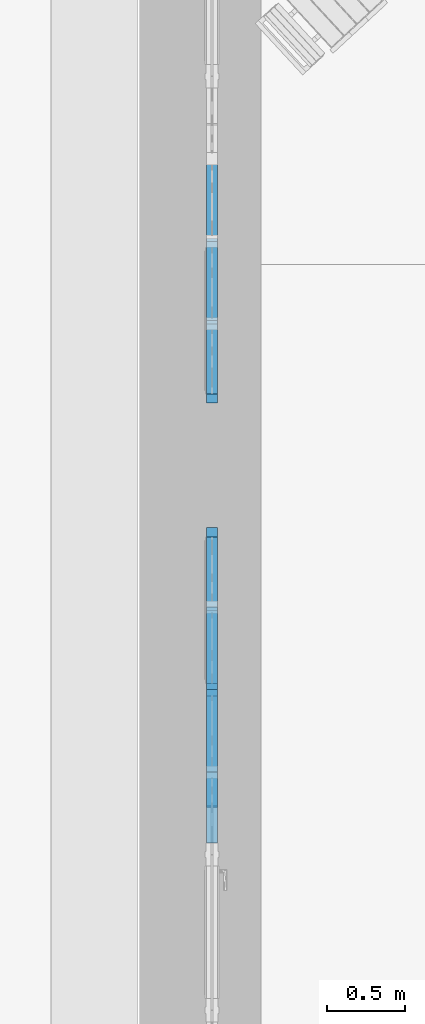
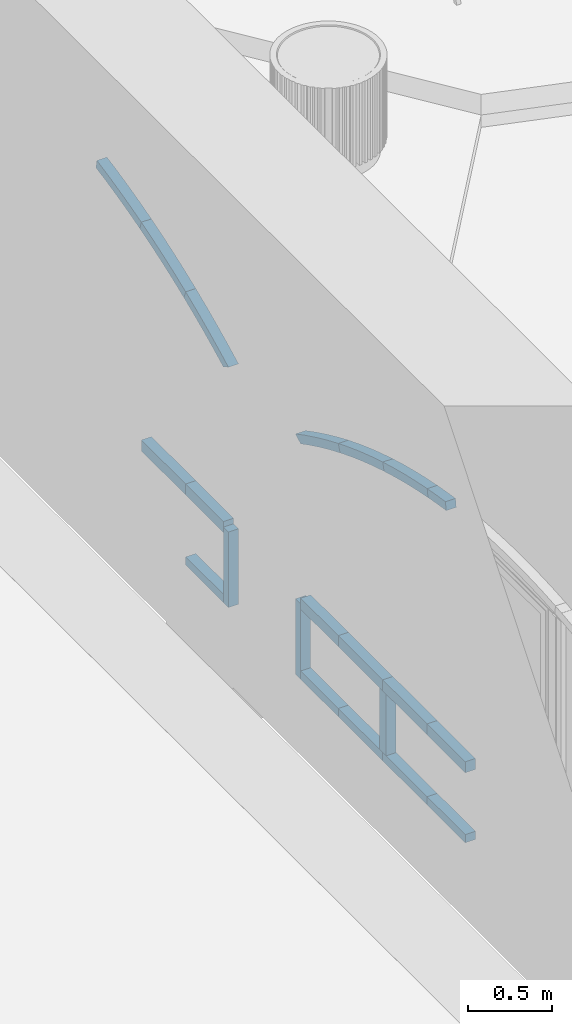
# One storey, part 40 of 88: 21 members, 2 elements without a shape of their own.
"""IFC2X3 building model written with IfcOpenShell, lengths in millimetres."""

import ifcopenshell
import ifcopenshell.guid

model = None  # the IFC model being written
_history = None  # IfcOwnerHistory: only IFC2X3 demands one
_inside = {}  # id of a spatial element -> (the spatial element, [elements in it])
_under = {}  # id of a project, library or spatial element -> (it, [spatial elements below it])
_declared = {}  # id of a project -> (the project, [libraries it declares])
_typed = {}  # id of a type object -> (the type object, [elements of that type])
_made_of = {}  # id of a material, layer set ... -> (it, [elements and type objects made of it])


def new_model(schema):
    """Start an empty IFC model of exactly this schema.

    Asked for "IFC4X3", IfcOpenShell would pick the latest addendum, in which some entities
    have other attributes; the version numbers below select the first issue.
    IFC2X3 requires an IfcOwnerHistory on every rooted entity: one is made here for all.
    """
    global model, _history
    if schema == "IFC4X3":
        model = ifcopenshell.file(schema_version=(4, 3, 0, 0))
    else:
        model = ifcopenshell.file(schema=schema)
    _inside.clear()
    _under.clear()
    _declared.clear()
    _typed.clear()
    _made_of.clear()
    _history = None
    if model.schema == "IFC2X3":
        org = make("IfcOrganization", Name="unknown")
        user = make(
            "IfcPersonAndOrganization",
            ThePerson=make("IfcPerson", FamilyName="unknown"),
            TheOrganization=org,
        )
        app = make(
            "IfcApplication",
            ApplicationDeveloper=org,
            Version="unknown",
            ApplicationFullName="unknown",
            ApplicationIdentifier="unknown",
        )
        _history = make(
            "IfcOwnerHistory",
            OwningUser=user,
            OwningApplication=app,
            ChangeAction="ADDED",
            CreationDate=0,
        )
    return model


def make(cls, **values):
    """One entity of the class cls with the attributes given. An attribute that is None is left unset."""
    return model.create_entity(
        cls, **{name: value for name, value in values.items() if value is not None}
    )


def entity(cls, *values):
    """Any entity or typed value of the class cls, its attributes in the order of the schema. None: left unset."""
    e = model.create_entity(cls)
    for i, value in enumerate(values):
        if value is not None:
            e[i] = value
    return e


def rooted(cls, **values):
    """An entity with a GlobalId (a new one), such as an element, a storey or a relation."""
    return make(cls, GlobalId=ifcopenshell.guid.new(), OwnerHistory=_history, **values)


def si_unit(unit_type, name, prefix=None):
    """IfcSIUnit, for example si_unit("LENGTHUNIT", "METRE", prefix="MILLI")."""
    return make("IfcSIUnit", UnitType=unit_type, Prefix=prefix, Name=name)


def converted_unit(unit_type, name, factor, base, dimensions=None, offset=None):
    """IfcConversionBasedUnit, such as the inch: factor (a typed value) times the base unit."""
    return make(
        "IfcConversionBasedUnit"
        if offset is None
        else "IfcConversionBasedUnitWithOffset",
        ConversionOffset=offset,
        Dimensions=None
        if dimensions is None
        else entity("IfcDimensionalExponents", *dimensions),
        UnitType=unit_type,
        Name=name,
        ConversionFactor=make(
            "IfcMeasureWithUnit", ValueComponent=factor, UnitComponent=base
        ),
    )


def derived_unit(unit_type, elements):
    """IfcDerivedUnit: a product of units, each with its exponent."""
    return make(
        "IfcDerivedUnit",
        Elements=[
            make("IfcDerivedUnitElement", Unit=unit, Exponent=power)
            for unit, power in elements
        ],
        UnitType=unit_type,
    )


def assignment(units):
    """IfcUnitAssignment: the units of a project."""
    return None if units is None else make("IfcUnitAssignment", Units=units)


def point(xyz):
    """IfcCartesianPoint."""
    return None if xyz is None else make("IfcCartesianPoint", Coordinates=xyz)


def direction(xyz):
    """IfcDirection."""
    return None if xyz is None else make("IfcDirection", DirectionRatios=xyz)


def frame(location, z_axis=None, x_axis=None):
    """IfcAxis2Placement3D, a coordinate frame: its origin and axes. An axis left out is left unset."""
    return make(
        "IfcAxis2Placement3D",
        Location=point(location),
        Axis=direction(z_axis),
        RefDirection=direction(x_axis),
    )


def frame_2d(location, x_axis=None):
    """IfcAxis2Placement2D, a coordinate frame in the plane: its origin and x axis."""
    return make(
        "IfcAxis2Placement2D", Location=point(location), RefDirection=direction(x_axis)
    )


def origin():
    """The frame at (0, 0, 0) with its axes left unset."""
    return frame((0.0, 0.0, 0.0))


def place(relative_to, where):
    """IfcLocalPlacement: puts the frame where relative to a parent placement (None: the world)."""
    return make(
        "IfcLocalPlacement", PlacementRelTo=relative_to, RelativePlacement=where
    )


def context(
    kind, dimensions, precision=None, world=None, true_north=None, identifier=None
):
    """IfcGeometricRepresentationContext, for example the 3D "Model" context."""
    return make(
        "IfcGeometricRepresentationContext",
        ContextIdentifier=identifier,
        ContextType=kind,
        CoordinateSpaceDimension=dimensions,
        Precision=precision,
        WorldCoordinateSystem=world,
        TrueNorth=true_north,
    )


def subcontext(parent, identifier, kind, view, scale=None):
    """IfcGeometricRepresentationSubContext, for example "Body" below "Model"."""
    return make(
        "IfcGeometricRepresentationSubContext",
        ContextIdentifier=identifier,
        ContextType=kind,
        ParentContext=parent,
        TargetScale=scale,
        TargetView=view,
    )


def project(units=None, contexts=None):
    """IfcProject with its units and contexts."""
    return rooted(
        "IfcProject",
        Name="project",
        RepresentationContexts=contexts,
        UnitsInContext=assignment(units),
    )


def spatial(cls, under=None, at=None, **own):
    """A site, building, storey or space (cls), placed at a placement, below another one or the project."""
    s = rooted(cls, ObjectPlacement=at, **own)
    if under is not None:
        _under.setdefault(under.id(), (under, []))[1].append(s)
    return s


def polyline(points):
    """IfcPolyline through the points."""
    return make("IfcPolyline", Points=[point(p) for p in points])


def circle_curve(where, radius):
    """IfcCircle in the frame where."""
    return make("IfcCircle", Position=where, Radius=radius)


def parameter(value):
    """IfcParameterValue: where a trimmed curve begins or ends, as a parameter of its basis curve."""
    return model.create_entity("IfcParameterValue", value)


def trimmed(basis, trim1, trim2, sense, master):
    """IfcTrimmedCurve: the piece of a basis curve between two trims."""
    return make(
        "IfcTrimmedCurve",
        BasisCurve=basis,
        Trim1=trim1,
        Trim2=trim2,
        SenseAgreement=sense,
        MasterRepresentation=master,
    )


def segment(curve, same_sense, transition):
    """IfcCompositeCurveSegment."""
    return make(
        "IfcCompositeCurveSegment",
        Transition=transition,
        SameSense=same_sense,
        ParentCurve=curve,
    )


def composite_curve(segments, self_intersect=None):
    """IfcCompositeCurve: segments joined end to end."""
    return make("IfcCompositeCurve", Segments=segments, SelfIntersect=self_intersect)


def profile(cls, at=None, kind="AREA", **sizes):
    """A parametric profile (cls). Its sizes go by their IFC names, for example OverallWidth=200.0."""
    return make(cls, ProfileType=kind, Position=at, **sizes)


def rectangle(**sizes):
    """IfcRectangleProfileDef."""
    return profile("IfcRectangleProfileDef", **sizes)


def outline(outer, holes=None, kind="AREA"):
    """IfcArbitraryClosedProfileDef: a profile drawn as a closed curve; with holes, ...WithVoids."""
    if holes is None:
        return make("IfcArbitraryClosedProfileDef", ProfileType=kind, OuterCurve=outer)
    return make(
        "IfcArbitraryProfileDefWithVoids",
        ProfileType=kind,
        OuterCurve=outer,
        InnerCurves=holes,
    )


def extrude(swept, where, along, depth):
    """IfcExtrudedAreaSolid: the profile swept, set in the frame where, extruded along a direction by depth."""
    return make(
        "IfcExtrudedAreaSolid",
        SweptArea=swept,
        Position=where,
        ExtrudedDirection=direction(along),
        Depth=depth,
    )


def shape(context_of_items, identifier, shape_type, items):
    """IfcShapeRepresentation: the items that make up one representation, for example the "Body"."""
    return make(
        "IfcShapeRepresentation",
        ContextOfItems=context_of_items,
        RepresentationIdentifier=identifier,
        RepresentationType=shape_type,
        Items=items,
    )


def source(mapping_origin, context_of_items, identifier, shape_type, items):
    """IfcRepresentationMap: a shape defined once, which mapped items show again and again."""
    return make(
        "IfcRepresentationMap",
        MappingOrigin=mapping_origin,
        MappedRepresentation=shape(context_of_items, identifier, shape_type, items),
    )


def transform(
    local_origin,
    x_axis=None,
    y_axis=None,
    z_axis=None,
    scale=None,
    scale2=None,
    scale3=None,
    uniform=True,
):
    """IfcCartesianTransformationOperator3D, or its non-uniform kind. x_axis, y_axis, z_axis: its Axis1, 2, 3."""
    if uniform:
        return make(
            "IfcCartesianTransformationOperator3D",
            Axis1=direction(x_axis),
            Axis2=direction(y_axis),
            LocalOrigin=point(local_origin),
            Scale=scale,
            Axis3=direction(z_axis),
        )
    return make(
        "IfcCartesianTransformationOperator3DnonUniform",
        Axis1=direction(x_axis),
        Axis2=direction(y_axis),
        LocalOrigin=point(local_origin),
        Scale=scale,
        Axis3=direction(z_axis),
        Scale2=scale2,
        Scale3=scale3,
    )


def mapped(mapping_source, mapping_target):
    """IfcMappedItem: shows the shape of a source again, moved by a transform."""
    return make(
        "IfcMappedItem", MappingSource=mapping_source, MappingTarget=mapping_target
    )


def material(Name=None, Category=None):
    """IfcMaterial."""
    return make("IfcMaterial", Name=Name, Category=Category)


def made_of(thing, what):
    """Note that an element or type object is made of a material, layer set ...; save() writes the relation."""
    if what is not None:
        _made_of.setdefault(what.id(), (what, []))[1].append(thing)
    return thing


def type_object(cls, material=None, **own):
    """A type object (cls), such as IfcWallType, which elements share."""
    return made_of(rooted(cls, **own), material)


def type_shapes(of_type, sources):
    """Give a type object the sources (RepresentationMaps) that its elements show as mapped items."""
    of_type.RepresentationMaps = sources


def element(
    cls,
    number,
    at=None,
    inside=None,
    cuts=None,
    type_object=None,
    material=None,
    context=None,
    identifier="Body",
    shape_type=None,
    held_by="IfcProductDefinitionShape",
    body=None,
    shapes=None,
    **own,
):
    """One element of the class cls, such as IfcWall. Its Tag is "e" and its number.

    at: its placement. inside: the storey or other place that contains it. cuts: it is an
    opening in that element (IfcRelVoidsElement). A single representation is given by context,
    identifier, shape_type and body (its items); several are given by shapes. held_by: the class
    of the entity that holds the representations. save() writes the other relations.
    """
    e = rooted(cls, Tag="e%d" % number, ObjectPlacement=at, **own)
    if body is not None:
        shapes = [shape(context, identifier, shape_type, body)]
    if shapes is not None:
        e.Representation = make(held_by, Representations=shapes)
    if inside is not None:
        _inside.setdefault(inside.id(), (inside, []))[1].append(e)
    if cuts is not None:
        rooted(
            "IfcRelVoidsElement", RelatingBuildingElement=cuts, RelatedOpeningElement=e
        )
    if type_object is not None:
        _typed.setdefault(type_object.id(), (type_object, []))[1].append(e)
    return made_of(e, material)


def aggregate(whole, parts):
    """IfcRelAggregates: a whole, such as a stair, and the parts it consists of."""
    return rooted("IfcRelAggregates", RelatingObject=whole, RelatedObjects=parts)


def save(model, path):
    """Write the relations noted so far, then the file.

    IfcRelAggregates (storeys below a building ...), IfcRelContainedInSpatialStructure (elements
    in a storey), IfcRelDefinesByType, IfcRelAssociatesMaterial and IfcRelDeclares: one each for
    every whole, place, type object, material and project.
    """
    for whole, parts in _under.values():
        aggregate(whole, parts)
    for where, things in _inside.values():
        rooted(
            "IfcRelContainedInSpatialStructure",
            RelatedElements=things,
            RelatingStructure=where,
        )
    for kind, things in _typed.values():
        rooted("IfcRelDefinesByType", RelatedObjects=things, RelatingType=kind)
    for what, things in _made_of.values():
        rooted("IfcRelAssociatesMaterial", RelatedObjects=things, RelatingMaterial=what)
    for by, libraries in _declared.values():
        rooted("IfcRelDeclares", RelatingContext=by, RelatedDefinitions=libraries)
    model.write(path)


model = new_model("IFC2X3")

# Units and contexts
model_context = context("Model", 3, precision=0.01, world=origin(), true_north=direction((6.123031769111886e-17, 1.0)))
body_context = subcontext(model_context, "Body", "Model", "MODEL_VIEW")
ifc_project = project(units=[si_unit("LENGTHUNIT", "METRE", prefix="MILLI"), si_unit("AREAUNIT", "SQUARE_METRE"), si_unit("VOLUMEUNIT", "CUBIC_METRE"), converted_unit("PLANEANGLEUNIT", "DEGREE", entity("IfcPlaneAngleMeasure", 0.017453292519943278), si_unit("PLANEANGLEUNIT", "RADIAN"), dimensions=[0, 0, 0, 0, 0, 0, 0]), si_unit("MASSUNIT", "GRAM", prefix="KILO"), derived_unit("MASSDENSITYUNIT", [(si_unit("MASSUNIT", "GRAM", prefix="KILO"), 1), (si_unit("LENGTHUNIT", "METRE"), -3)]), derived_unit("IONCONCENTRATIONUNIT", [(si_unit("MASSUNIT", "GRAM", prefix="KILO"), 1), (si_unit("LENGTHUNIT", "METRE"), -3)]), derived_unit("MOMENTOFINERTIAUNIT", [(si_unit("LENGTHUNIT", "METRE"), 4)]), si_unit("TIMEUNIT", "SECOND"), si_unit("FREQUENCYUNIT", "HERTZ"), si_unit("THERMODYNAMICTEMPERATUREUNIT", "DEGREE_CELSIUS"), derived_unit("THERMALTRANSMITTANCEUNIT", [(si_unit("MASSUNIT", "GRAM", prefix="KILO"), 1), (si_unit("THERMODYNAMICTEMPERATUREUNIT", "KELVIN"), -1), (si_unit("TIMEUNIT", "SECOND"), -3)]), derived_unit("THERMALCONDUCTANCEUNIT", [(si_unit("MASSUNIT", "GRAM", prefix="KILO"), 1), (si_unit("THERMODYNAMICTEMPERATUREUNIT", "KELVIN"), -1), (si_unit("TIMEUNIT", "SECOND"), -3), (si_unit("LENGTHUNIT", "METRE"), 1)]), derived_unit("VOLUMETRICFLOWRATEUNIT", [(si_unit("LENGTHUNIT", "METRE", prefix="DECI"), 3), (si_unit("TIMEUNIT", "SECOND"), -1)]), derived_unit("MASSFLOWRATEUNIT", [(si_unit("MASSUNIT", "GRAM", prefix="KILO"), 1), (si_unit("TIMEUNIT", "SECOND"), -1)]), derived_unit("ROTATIONALFREQUENCYUNIT", [(si_unit("TIMEUNIT", "SECOND"), -1)]), si_unit("ELECTRICCURRENTUNIT", "AMPERE"), si_unit("ELECTRICVOLTAGEUNIT", "VOLT"), si_unit("POWERUNIT", "WATT"), si_unit("FORCEUNIT", "NEWTON", prefix="KILO"), si_unit("ILLUMINANCEUNIT", "LUX"), si_unit("LUMINOUSFLUXUNIT", "LUMEN"), si_unit("LUMINOUSINTENSITYUNIT", "CANDELA"), si_unit("ENERGYUNIT", "JOULE"), derived_unit("USERDEFINED", [(si_unit("MASSUNIT", "GRAM", prefix="KILO"), -1), (si_unit("LENGTHUNIT", "METRE"), -2), (si_unit("TIMEUNIT", "SECOND"), 3), (si_unit("LUMINOUSFLUXUNIT", "LUMEN"), 1)]), derived_unit("USERDEFINED", [(si_unit("MASSUNIT", "GRAM", prefix="KILO"), 1), (si_unit("TIMEUNIT", "SECOND"), -3), (si_unit("LENGTHUNIT", "METRE"), 3), (si_unit("ELECTRICCURRENTUNIT", "AMPERE"), -2)]), derived_unit("SOUNDPOWERUNIT", [(si_unit("MASSUNIT", "GRAM", prefix="KILO"), 1), (si_unit("TIMEUNIT", "SECOND"), -3), (si_unit("LENGTHUNIT", "METRE"), 2)]), derived_unit("SOUNDPRESSUREUNIT", [(si_unit("MASSUNIT", "GRAM", prefix="KILO"), 1), (si_unit("LENGTHUNIT", "METRE"), -1), (si_unit("TIMEUNIT", "SECOND"), -2)]), derived_unit("LINEARVELOCITYUNIT", [(si_unit("LENGTHUNIT", "METRE"), 1), (si_unit("TIMEUNIT", "SECOND"), -1)]), si_unit("PRESSUREUNIT", "PASCAL"), derived_unit("USERDEFINED", [(si_unit("MASSUNIT", "GRAM", prefix="KILO"), 1), (si_unit("LENGTHUNIT", "METRE"), -2), (si_unit("TIMEUNIT", "SECOND"), -2)]), derived_unit("LINEARFORCEUNIT", [(si_unit("MASSUNIT", "GRAM", prefix="KILO"), 1), (si_unit("TIMEUNIT", "SECOND"), -2)]), derived_unit("PLANARFORCEUNIT", [(si_unit("MASSUNIT", "GRAM", prefix="KILO"), 1), (si_unit("LENGTHUNIT", "METRE"), -1), (si_unit("TIMEUNIT", "SECOND"), -2)]), derived_unit("SPECIFICHEATCAPACITYUNIT", [(si_unit("THERMODYNAMICTEMPERATUREUNIT", "KELVIN"), -1), (si_unit("LENGTHUNIT", "METRE"), 2), (si_unit("TIMEUNIT", "SECOND"), -2)]), derived_unit("HEATFLUXDENSITYUNIT", [(si_unit("MASSUNIT", "GRAM", prefix="KILO"), 1), (si_unit("TIMEUNIT", "SECOND"), -3)]), derived_unit("HEATINGVALUEUNIT", [(si_unit("LENGTHUNIT", "METRE"), 2), (si_unit("TIMEUNIT", "SECOND"), -2)]), derived_unit("VAPORPERMEABILITYUNIT", [(si_unit("LENGTHUNIT", "METRE"), -1), (si_unit("TIMEUNIT", "SECOND"), 1)]), derived_unit("DYNAMICVISCOSITYUNIT", [(si_unit("MASSUNIT", "GRAM", prefix="KILO"), 1), (si_unit("TIMEUNIT", "SECOND"), -1), (si_unit("LENGTHUNIT", "METRE"), -1)]), derived_unit("THERMALEXPANSIONCOEFFICIENTUNIT", [(si_unit("THERMODYNAMICTEMPERATUREUNIT", "KELVIN"), -1)]), derived_unit("MODULUSOFELASTICITYUNIT", [(si_unit("MASSUNIT", "GRAM", prefix="KILO"), 1), (si_unit("LENGTHUNIT", "METRE"), -1), (si_unit("TIMEUNIT", "SECOND"), -2)]), derived_unit("ISOTHERMALMOISTURECAPACITYUNIT", [(si_unit("MASSUNIT", "GRAM", prefix="KILO"), -1), (si_unit("LENGTHUNIT", "METRE"), 3)]), derived_unit("MOISTUREDIFFUSIVITYUNIT", [(si_unit("TIMEUNIT", "SECOND"), -1), (si_unit("LENGTHUNIT", "METRE"), 2)]), derived_unit("MASSPERLENGTHUNIT", [(si_unit("MASSUNIT", "GRAM", prefix="KILO"), 1), (si_unit("LENGTHUNIT", "METRE"), -1)]), derived_unit("THERMALRESISTANCEUNIT", [(si_unit("MASSUNIT", "GRAM", prefix="KILO"), -1), (si_unit("TIMEUNIT", "SECOND"), 3), (si_unit("THERMODYNAMICTEMPERATUREUNIT", "KELVIN"), 1)]), derived_unit("ACCELERATIONUNIT", [(si_unit("LENGTHUNIT", "METRE"), 1), (si_unit("TIMEUNIT", "SECOND"), -2)]), derived_unit("ANGULARVELOCITYUNIT", [(si_unit("TIMEUNIT", "SECOND"), -1), (si_unit("PLANEANGLEUNIT", "RADIAN"), 1)]), derived_unit("LINEARSTIFFNESSUNIT", [(si_unit("MASSUNIT", "GRAM", prefix="KILO"), 1), (si_unit("TIMEUNIT", "SECOND"), -2)]), derived_unit("WARPINGCONSTANTUNIT", [(si_unit("LENGTHUNIT", "METRE"), 6)]), derived_unit("LINEARMOMENTUNIT", [(si_unit("MASSUNIT", "GRAM", prefix="KILO"), 1), (si_unit("LENGTHUNIT", "METRE"), 1), (si_unit("TIMEUNIT", "SECOND"), -2)]), derived_unit("TORQUEUNIT", [(si_unit("MASSUNIT", "GRAM", prefix="KILO"), 1), (si_unit("LENGTHUNIT", "METRE"), 2), (si_unit("TIMEUNIT", "SECOND"), -2)])], contexts=[model_context])

# Site, building, storey
site_placement = place(None, origin())
site = spatial("IfcSite", under=ifc_project, at=site_placement, Name="Default", CompositionType="ELEMENT")
building_placement = place(site_placement, origin())
building = spatial("IfcBuilding", under=site, at=building_placement, Name="Eesti Rahvusraamatukogu hoone renoveerimise projekteerimistööd", CompositionType="ELEMENT")
storey_placement = place(building_placement, origin())
storey = spatial("IfcBuildingStorey", under=building, at=storey_placement, Name="1. korrus", CompositionType="ELEMENT", Elevation=0.0)

# Curtain wall, members
curtain_wall_type = type_object("IfcCurtainWallType", Name="Curtain Wall:Ak-05", PredefinedType="NOTDEFINED")
curtain_wall_1_placement = place(storey_placement, origin())
curtain_wall_1 = element("IfcCurtainWall", 1, at=curtain_wall_1_placement, inside=storey, type_object=curtain_wall_type, Name="Curtain Wall:Ak-05", ObjectType="Curtain Wall:Ak-05")
ifc_material = material(Name="LUMION_dark steel window frames")
member_type_1 = type_object("IfcMemberType", Name="Rectangular Mullion:NEW 60x70mm", PredefinedType="MULLION", material=ifc_material)
shared_shape_1 = source(origin(), body_context, "Body", "SweptSolid", [
    extrude(outline(composite_curve([segment(polyline([(-44.19959331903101, -278.92780712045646), (15.800406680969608, -278.9278071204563)]), True, "CONTINUOUS"), segment(trimmed(circle_curve(frame_2d((5479.080973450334, -278.9278071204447), x_axis=(-0.9948301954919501, 0.10155236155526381)), 5463.280566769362), [parameter(3.5622212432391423e-13)], [parameter(5.828569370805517)], True, "PARAMETER"), False, "CONTINUOUS"), segment(polyline([(44.04449918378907, 275.8812362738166), (-15.645312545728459, 281.97437796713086)]), True, "CONTINUOUS"), segment(trimmed(circle_curve(frame_2d((5479.080973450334, -278.9278071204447), x_axis=(-0.9948301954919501, 0.10155236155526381)), 5523.280566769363), [parameter(3.5622212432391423e-13)], [parameter(5.828569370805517)], True, "PARAMETER"), True, "CONTINUOUS")], self_intersect=False)), frame((-44.19959331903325, -35.0, -278.9278071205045), z_axis=(0.0, 1.0, 0.0), x_axis=(-0.9948301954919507, 0.0, 0.10155236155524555)), (0.0, 0.0, 1.0), 69.99999999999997),
])
type_shapes(member_type_1, [shared_shape_1])
member_1_placement = place(curtain_wall_1_placement, frame((-42905.0, 43335.0, 1939.3047106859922), z_axis=(0.0, -0.9256428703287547, -0.3783983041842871), x_axis=(0.0, -0.3783983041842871, 0.9256428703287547)))
member_1 = element("IfcMember", 2, at=member_1_placement, type_object=member_type_1, material=ifc_material, Name="Rectangular Mullion:NEW 60x70mm", ObjectType="Rectangular Mullion:NEW 60x70mm", context=body_context, shape_type="MappedRepresentation", body=[
    mapped(shared_shape_1, transform((0.0, 0.0, 0.0), scale=1.0)),
])
member_type_2 = type_object("IfcMemberType", Name="Rectangular Mullion:NEW 60x70mm", PredefinedType="MULLION", material=ifc_material)
shared_shape_2 = source(origin(), body_context, "Body", "SweptSolid", [
    extrude(outline(composite_curve([segment(polyline([(-43.38278695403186, -270.80676601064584), (16.61721304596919, -270.80676601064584)]), True, "CONTINUOUS"), segment(trimmed(circle_curve(frame_2d((5479.897779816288, -270.80676601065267), x_axis=(-0.9951275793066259, 0.09859564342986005)), 5463.280566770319), [parameter(3.5622212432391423e-13)], [parameter(5.658307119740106)], True, "PARAMETER"), False, "CONTINUOUS"), segment(polyline([(43.23661433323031, 267.8488967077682), (-16.471040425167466, 273.7646353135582)]), True, "CONTINUOUS"), segment(trimmed(circle_curve(frame_2d((5479.897779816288, -270.80676601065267), x_axis=(-0.9951275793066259, 0.09859564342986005)), 5523.280566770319), [parameter(3.5622212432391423e-13)], [parameter(5.658307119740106)], True, "PARAMETER"), True, "CONTINUOUS")], self_intersect=False)), frame((-43.382786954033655, -35.0, -270.8067660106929), z_axis=(0.0, 1.0, 0.0), x_axis=(-0.9951275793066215, 0.0, 0.09859564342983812)), (0.0, 0.0, 1.0), 69.99999999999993),
])
type_shapes(member_type_2, [shared_shape_2])
member_2_placement = place(curtain_wall_1_placement, frame((-42905.0, 43865.0, 2125.1180799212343), z_axis=(0.0, -0.9592847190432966, -0.282440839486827), x_axis=(0.0, -0.282440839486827, 0.9592847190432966)))
member_2 = element("IfcMember", 3, at=member_2_placement, type_object=member_type_2, material=ifc_material, Name="Rectangular Mullion:NEW 60x70mm", ObjectType="Rectangular Mullion:NEW 60x70mm", context=body_context, shape_type="MappedRepresentation", body=[
    mapped(shared_shape_2, transform((0.0, 0.0, 0.0), scale=1.0)),
])

curtain_wall_2_placement = place(storey_placement, origin())
curtain_wall_2 = element("IfcCurtainWall", 4, at=curtain_wall_2_placement, inside=storey, type_object=curtain_wall_type, Name="Curtain Wall:Ak-05", ObjectType="Curtain Wall:Ak-05")
member_type_3 = type_object("IfcMemberType", Name="Rectangular Mullion:NEW 60x70mm", PredefinedType="MULLION", material=ifc_material)
shared_shape_3 = source(origin(), body_context, "Body", "SweptSolid", [
    extrude(outline(composite_curve([segment(trimmed(circle_curve(frame_2d((4549.812785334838, 3066.2072493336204), x_axis=(-0.8006634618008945, -0.5991143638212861)), 5523.280566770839), [parameter(354.15250498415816)], [parameter(359.99999999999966)], True, "PARAMETER"), True, "CONTINUOUS"), segment(polyline([(127.52384624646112, -242.86947363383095), (175.56365395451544, -206.92261180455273)]), True, "CONTINUOUS"), segment(trimmed(circle_curve(frame_2d((4549.812785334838, 3066.2072493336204), x_axis=(-0.8006634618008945, -0.5991143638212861)), 5463.280566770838), [parameter(354.53073311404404)], [parameter(359.99999999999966)], True, "PARAMETER"), False, "CONTINUOUS"), segment(polyline([(-116.49037438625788, 224.89604271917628), (-186.59712581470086, 224.89604271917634)]), True, "CONTINUOUS")], self_intersect=False)), frame((-43.402905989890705, -35.0, -270.85808154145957), z_axis=(0.0, -1.0, 0.0), x_axis=(-0.800663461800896, 0.0, 0.5991143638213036)), (0.0, 0.0, -1.0), 69.99999999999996),
])
type_shapes(member_type_3, [shared_shape_3])
member_3_placement = place(curtain_wall_2_placement, frame((-42905.0, 41515.0, 1939.3047106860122), z_axis=(0.0, -0.925642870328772, 0.3783983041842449), x_axis=(0.0, 0.3783983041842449, 0.925642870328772)))
member_3 = element("IfcMember", 5, at=member_3_placement, type_object=member_type_3, material=ifc_material, Name="Rectangular Mullion:NEW 60x70mm", ObjectType="Rectangular Mullion:NEW 60x70mm", context=body_context, shape_type="MappedRepresentation", body=[
    mapped(shared_shape_3, transform((0.0, 0.0, 0.0), scale=1.0)),
])
member_type_4 = type_object("IfcMemberType", Name="Rectangular Mullion:NEW 60x70mm", PredefinedType="MULLION", material=ifc_material)
shared_shape_4 = source(origin(), body_context, "Body", "SweptSolid", [
    extrude(outline(composite_curve([segment(polyline([(-44.19959331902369, -278.9278071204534), (15.8004066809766, -278.92780712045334)]), True, "CONTINUOUS"), segment(trimmed(circle_curve(frame_2d((5479.0809734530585, -278.9278071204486), x_axis=(-0.9948301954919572, 0.10155236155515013)), 5463.28056677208), [parameter(3.5622212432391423e-13)], [parameter(5.828569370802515)], True, "PARAMETER"), False, "CONTINUOUS"), segment(polyline([(44.04449918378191, 275.88123627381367), (-15.645312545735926, 281.97437796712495)]), True, "CONTINUOUS"), segment(trimmed(circle_curve(frame_2d((5479.0809734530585, -278.9278071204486), x_axis=(-0.9948301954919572, 0.10155236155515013)), 5523.28056677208), [parameter(3.5622212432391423e-13)], [parameter(5.828569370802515)], True, "PARAMETER"), True, "CONTINUOUS")], self_intersect=False)), frame((-44.199593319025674, -35.0, -278.9278071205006), z_axis=(0.0, 1.0, 0.0), x_axis=(-0.994830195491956, 0.0, 0.1015523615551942)), (0.0, 0.0, 1.0), 70.0),
])
type_shapes(member_type_4, [shared_shape_4])
member_4_placement = place(curtain_wall_2_placement, frame((-42905.0, 40985.0, 2125.118079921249), z_axis=(0.0, -0.9592847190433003, 0.282440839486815), x_axis=(0.0, 0.282440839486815, 0.9592847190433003)))
member_4 = element("IfcMember", 6, at=member_4_placement, type_object=member_type_4, material=ifc_material, Name="Rectangular Mullion:NEW 60x70mm", ObjectType="Rectangular Mullion:NEW 60x70mm", context=body_context, shape_type="MappedRepresentation", body=[
    mapped(shared_shape_4, transform((0.0, 0.0, 0.0), scale=1.0)),
])
member_type_5 = type_object("IfcMemberType", Name="Rectangular Mullion:NEW 60x70mm", PredefinedType="MULLION", material=ifc_material)
shared_shape_5 = source(origin(), body_context, "Body", "SweptSolid", [
    extrude(outline(composite_curve([segment(polyline([(-43.38278695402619, -270.80676601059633), (16.61721304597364, -270.8067660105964)]), True, "CONTINUOUS"), segment(trimmed(circle_curve(frame_2d((5479.897779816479, -270.8067660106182), x_axis=(-0.9951275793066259, 0.0985956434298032)), 5463.280566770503), [parameter(3.5622212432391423e-13)], [parameter(5.658307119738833)], True, "PARAMETER"), False, "CONTINUOUS"), segment(polyline([(43.23661433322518, 267.848896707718), (-16.471040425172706, 273.76463531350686)]), True, "CONTINUOUS"), segment(trimmed(circle_curve(frame_2d((5479.897779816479, -270.8067660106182), x_axis=(-0.9951275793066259, 0.0985956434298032)), 5523.280566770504), [parameter(3.5622212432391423e-13)], [parameter(5.658307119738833)], True, "PARAMETER"), True, "CONTINUOUS")], self_intersect=False)), frame((-43.38278695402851, -35.0, -270.8067660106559), z_axis=(0.0, 1.0, 0.0), x_axis=(-0.9951275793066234, 0.0, 0.09859564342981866)), (0.0, 0.0, 1.0), 69.99999999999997),
])
type_shapes(member_type_5, [shared_shape_5])
member_5_placement = place(curtain_wall_2_placement, frame((-42905.0, 40455.0, 2253.111256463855), z_axis=(0.0, -0.9824581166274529, 0.1864833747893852), x_axis=(0.0, 0.1864833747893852, 0.9824581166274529)))
member_5 = element("IfcMember", 7, at=member_5_placement, type_object=member_type_5, material=ifc_material, Name="Rectangular Mullion:NEW 60x70mm", ObjectType="Rectangular Mullion:NEW 60x70mm", context=body_context, shape_type="MappedRepresentation", body=[
    mapped(shared_shape_5, transform((0.0, 0.0, 0.0), scale=1.0)),
])

# Member
member_type_6 = type_object("IfcMemberType", Name="Rectangular Mullion:NEW 60x70mm", PredefinedType="MULLION", material=ifc_material)
shared_shape_6 = source(origin(), body_context, "Body", "SweptSolid", [
    extrude(outline(composite_curve([segment(polyline([(-43.402905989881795, -270.8580815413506), (16.59709401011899, -270.85808154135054)]), True, "CONTINUOUS"), segment(trimmed(circle_curve(frame_2d((5479.877660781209, -270.8580815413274), x_axis=(-0.9947965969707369, 0.10188096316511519)), 5463.280566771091), [parameter(0.37822812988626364)], [parameter(5.847495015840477)], True, "PARAMETER"), False, "CONTINUOUS"), segment(polyline([(41.46886313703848, 249.85710065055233), (-14.66305115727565, 291.85906243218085)]), True, "CONTINUOUS"), segment(trimmed(circle_curve(frame_2d((5479.877660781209, -270.8580815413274), x_axis=(-0.9947965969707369, 0.10188096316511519)), 5523.280566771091), [parameter(3.5622212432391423e-13)], [parameter(5.847495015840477)], True, "PARAMETER"), True, "CONTINUOUS")], self_intersect=False)), frame((-44.32163578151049, -35.0, -288.84651632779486), z_axis=(0.0, 1.0, 0.0), x_axis=(-0.9947965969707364, 0.0, 0.10188096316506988)), (0.0, 0.0, 1.0), 69.99999999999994),
])
type_shapes(member_type_6, [shared_shape_6])
member_6_placement = place(curtain_wall_1_placement, frame((-42905.0, 42825.0, 1699.7706559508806), z_axis=(0.0, -0.8822747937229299, -0.47073473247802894), x_axis=(0.0, -0.47073473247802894, 0.8822747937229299)))
member_6 = element("IfcMember", 8, at=member_6_placement, type_object=member_type_6, material=ifc_material, Name="Rectangular Mullion:NEW 60x70mm", ObjectType="Rectangular Mullion:NEW 60x70mm", context=body_context, shape_type="MappedRepresentation", body=[
    mapped(shared_shape_6, transform((0.0, 0.0, 0.0), scale=1.0)),
])

member_type_7 = type_object("IfcMemberType", Name="Rectangular Mullion:NEW 80x70mm", PredefinedType="MULLION", material=ifc_material)
shared_shape_7 = source(origin(), body_context, "Body", "SweptSolid", [
    extrude(rectangle(XDim=80.0, YDim=70.0, at=frame_2d((0.0, -3.552713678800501e-15), x_axis=(1.0, 0.0))), frame((0.0, 0.0, -450.0), z_axis=(0.0, 0.0, 1.0), x_axis=(-1.0, 0.0, 0.0)), (0.0, 0.0, 1.0), 449.9999999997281),
])
type_shapes(member_type_7, [shared_shape_7])
member_7_placement = place(curtain_wall_1_placement, frame((-42905.0, 42885.0, 500.0), z_axis=(0.0, -1.0, 0.0), x_axis=(0.0, 0.0, 1.0)))
member_7 = element("IfcMember", 9, at=member_7_placement, type_object=member_type_7, material=ifc_material, Name="Rectangular Mullion:NEW 80x70mm", ObjectType="Rectangular Mullion:NEW 80x70mm", context=body_context, shape_type="MappedRepresentation", body=[
    mapped(shared_shape_7, transform((0.0, 0.0, 0.0), scale=1.0)),
])

member_type_8 = type_object("IfcMemberType", Name="Rectangular Mullion:NEW 80x70mm", PredefinedType="MULLION", material=ifc_material)
shared_shape_8 = source(origin(), body_context, "Body", "SweptSolid", [
    extrude(rectangle(XDim=80.0, YDim=70.0, at=frame_2d((0.0, -3.552713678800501e-15), x_axis=(1.0, 0.0))), frame((0.0, 0.0, -530.0), z_axis=(0.0, 0.0, 1.0), x_axis=(-1.0, 0.0, 0.0)), (0.0, 0.0, 1.0), 530.0000000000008),
])
type_shapes(member_type_8, [shared_shape_8])
member_8_placement = place(curtain_wall_1_placement, frame((-42905.0, 43335.0, 500.0), z_axis=(0.0, -1.0, 0.0), x_axis=(0.0, 0.0, 1.0)))
member_8 = element("IfcMember", 10, at=member_8_placement, type_object=member_type_8, material=ifc_material, Name="Rectangular Mullion:NEW 80x70mm", ObjectType="Rectangular Mullion:NEW 80x70mm", context=body_context, shape_type="MappedRepresentation", body=[
    mapped(shared_shape_8, transform((0.0, 0.0, 0.0), scale=1.0)),
])

member_9_placement = place(curtain_wall_2_placement, frame((-42905.0, 40985.0, 500.0), z_axis=(0.0, -1.0, 0.0), x_axis=(0.0, 0.0, 1.0)))
member_9 = element("IfcMember", 11, at=member_9_placement, type_object=member_type_8, material=ifc_material, Name="Rectangular Mullion:NEW 80x70mm", ObjectType="Rectangular Mullion:NEW 80x70mm", context=body_context, shape_type="MappedRepresentation", body=[
    mapped(shared_shape_8, transform((0.0, 0.0, 0.0), scale=1.0)),
])

member_10_placement = place(curtain_wall_2_placement, frame((-42905.0, 40455.0, 500.0), z_axis=(0.0, -1.0, 0.0), x_axis=(0.0, 0.0, 1.0)))
member_10 = element("IfcMember", 12, at=member_10_placement, type_object=member_type_8, material=ifc_material, Name="Rectangular Mullion:NEW 80x70mm", ObjectType="Rectangular Mullion:NEW 80x70mm", context=body_context, shape_type="MappedRepresentation", body=[
    mapped(shared_shape_8, transform((0.0, 0.0, 0.0), scale=1.0)),
])

member_type_9 = type_object("IfcMemberType", Name="Rectangular Mullion:NEW 80x70mm", PredefinedType="MULLION", material=ifc_material)
shared_shape_9 = source(origin(), body_context, "Body", "SweptSolid", [
    extrude(rectangle(XDim=80.0, YDim=70.0, at=frame_2d((0.0, -3.552713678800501e-15), x_axis=(1.0, 0.0))), frame((0.0, 0.0, -455.0), z_axis=(0.0, 0.0, 1.0), x_axis=(-1.0, 0.0, 0.0)), (0.0, 0.0, 1.0), 455.0000000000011),
])
type_shapes(member_type_9, [shared_shape_9])
member_11_placement = place(curtain_wall_2_placement, frame((-42905.0, 40000.0, 500.0), z_axis=(0.0, -1.0, 0.0), x_axis=(0.0, 0.0, 1.0)))
member_11 = element("IfcMember", 13, at=member_11_placement, type_object=member_type_9, material=ifc_material, Name="Rectangular Mullion:NEW 80x70mm", ObjectType="Rectangular Mullion:NEW 80x70mm", context=body_context, shape_type="MappedRepresentation", body=[
    mapped(shared_shape_9, transform((0.0, 0.0, 0.0), scale=1.0)),
])

member_type_10 = type_object("IfcMemberType", Name="Rectangular Mullion:NEW 80x70mm", PredefinedType="MULLION", material=ifc_material)
shared_shape_10 = source(origin(), body_context, "Body", "SweptSolid", [
    extrude(rectangle(XDim=80.0, YDim=70.0, at=frame_2d((0.0, -3.552713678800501e-15), x_axis=(1.0, 0.0))), frame((0.0, 0.0, -450.0), z_axis=(0.0, 0.0, 1.0), x_axis=(-1.0, 0.0, 0.0)), (0.0, 0.0, 1.0), 449.9999999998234),
])
type_shapes(member_type_10, [shared_shape_10])
member_12_placement = place(curtain_wall_2_placement, frame((-42905.0, 41515.0, 500.0), z_axis=(0.0, -1.0, 0.0), x_axis=(0.0, 0.0, 1.0)))
member_12 = element("IfcMember", 14, at=member_12_placement, type_object=member_type_10, material=ifc_material, Name="Rectangular Mullion:NEW 80x70mm", ObjectType="Rectangular Mullion:NEW 80x70mm", context=body_context, shape_type="MappedRepresentation", body=[
    mapped(shared_shape_10, transform((0.0, 0.0, 0.0), scale=1.0)),
])

member_type_11 = type_object("IfcMemberType", Name="Rectangular Mullion:NEW 80x70mm", PredefinedType="MULLION", material=ifc_material)
shared_shape_11 = source(origin(), body_context, "Body", "SweptSolid", [
    extrude(rectangle(XDim=80.0, YDim=70.0, at=frame_2d((0.0, 3.552713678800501e-15), x_axis=(1.0, 0.0))), frame((0.0, 0.0, -450.0), z_axis=(0.0, 0.0, 1.0), x_axis=(-1.0, 0.0, 0.0)), (0.0, 0.0, 1.0), 450.00000000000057),
])
type_shapes(member_type_11, [shared_shape_11])
member_13_placement = place(curtain_wall_2_placement, frame((-42905.0, 40985.0, 10.0), z_axis=(0.0, 0.0, -1.0), x_axis=(0.0, -1.0, 0.0)))
member_13 = element("IfcMember", 15, at=member_13_placement, type_object=member_type_11, material=ifc_material, Name="Rectangular Mullion:NEW 80x70mm", ObjectType="Rectangular Mullion:NEW 80x70mm", context=body_context, shape_type="MappedRepresentation", body=[
    mapped(shared_shape_11, transform((0.0, 0.0, 0.0), scale=1.0)),
])

member_type_12 = type_object("IfcMemberType", Name="Rectangular Mullion:NEW 60x70mm", PredefinedType="MULLION", material=ifc_material)
shared_shape_12 = source(origin(), body_context, "Body", "SweptSolid", [
    extrude(rectangle(XDim=60.0, YDim=70.0, at=frame_2d((0.0, 3.552713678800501e-15), x_axis=(1.0, 0.0))), frame((-30.0, 0.0, -550.0), z_axis=(0.0, 0.0, 1.0), x_axis=(-1.0, 0.0, 0.0)), (0.0, 0.0, 1.0), 550.0000000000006),
])
type_shapes(member_type_12, [shared_shape_12])
member_14_placement = place(curtain_wall_1_placement, frame((-42905.0, 42825.0, -50.0), z_axis=(0.0, 0.0, -1.0), x_axis=(0.0, -1.0, 0.0)))
member_14 = element("IfcMember", 16, at=member_14_placement, type_object=member_type_12, material=ifc_material, Name="Rectangular Mullion:NEW 60x70mm", ObjectType="Rectangular Mullion:NEW 60x70mm", context=body_context, shape_type="MappedRepresentation", body=[
    mapped(shared_shape_12, transform((0.0, 0.0, 0.0), scale=1.0)),
])

member_type_13 = type_object("IfcMemberType", Name="Rectangular Mullion:NEW 60x70mm", PredefinedType="MULLION", material=ifc_material)
shared_shape_13 = source(origin(), body_context, "Body", "SweptSolid", [
    extrude(rectangle(XDim=60.0, YDim=70.0, at=frame_2d((0.0, 3.552713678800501e-15), x_axis=(1.0, 0.0))), frame((-30.0, 0.0, -550.0), z_axis=(0.0, 0.0, 1.0), x_axis=(-1.0, 0.0, 0.0)), (0.0, 0.0, 1.0), 550.0000000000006),
])
type_shapes(member_type_13, [shared_shape_13])
member_15_placement = place(curtain_wall_2_placement, frame((-42905.0, 42025.0, 500.0), z_axis=(0.0, 0.0, 1.0), x_axis=(0.0, 1.0, 0.0)))
member_15 = element("IfcMember", 17, at=member_15_placement, type_object=member_type_13, material=ifc_material, Name="Rectangular Mullion:NEW 60x70mm", ObjectType="Rectangular Mullion:NEW 60x70mm", context=body_context, shape_type="MappedRepresentation", body=[
    mapped(shared_shape_13, transform((0.0, 0.0, 0.0), scale=1.0)),
])

member_type_14 = type_object("IfcMemberType", Name="Rectangular Mullion:NEW 60x70mm", PredefinedType="MULLION", material=ifc_material)
shared_shape_14 = source(origin(), body_context, "Body", "SweptSolid", [
    extrude(rectangle(XDim=60.0, YDim=70.0, at=frame_2d((0.0, 3.552713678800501e-15), x_axis=(1.0, 0.0))), frame((-30.0, 0.0, -450.0), z_axis=(0.0, 0.0, 1.0), x_axis=(-1.0, 0.0, 0.0)), (0.0, 0.0, 1.0), 449.9999999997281),
])
type_shapes(member_type_14, [shared_shape_14])
member_16_placement = place(curtain_wall_1_placement, frame((-42905.0, 43335.0, -50.0), z_axis=(0.0, 1.0, 0.0), x_axis=(0.0, 0.0, -1.0)))
member_16 = element("IfcMember", 18, at=member_16_placement, type_object=member_type_14, material=ifc_material, Name="Rectangular Mullion:NEW 60x70mm", ObjectType="Rectangular Mullion:NEW 60x70mm", context=body_context, shape_type="MappedRepresentation", body=[
    mapped(shared_shape_14, transform((0.0, 0.0, 0.0), scale=1.0)),
])

aggregate(curtain_wall_1, [member_1, member_2, member_6, member_7, member_8, member_14, member_16])

member_type_15 = type_object("IfcMemberType", Name="Rectangular Mullion:NEW 60x70mm", PredefinedType="MULLION", material=ifc_material)
shared_shape_15 = source(origin(), body_context, "Body", "SweptSolid", [
    extrude(rectangle(XDim=60.0, YDim=70.0, at=frame_2d((0.0, 3.552713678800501e-15), x_axis=(1.0, 0.0))), frame((-30.0, 0.0, -530.0), z_axis=(0.0, 0.0, 1.0), x_axis=(-1.0, 0.0, 0.0)), (0.0, 0.0, 1.0), 530.0000000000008),
])
type_shapes(member_type_15, [shared_shape_15])
member_17_placement = place(curtain_wall_2_placement, frame((-42905.0, 40985.0, -50.0), z_axis=(0.0, 1.0, 0.0), x_axis=(0.0, 0.0, -1.0)))
member_17 = element("IfcMember", 19, at=member_17_placement, type_object=member_type_15, material=ifc_material, Name="Rectangular Mullion:NEW 60x70mm", ObjectType="Rectangular Mullion:NEW 60x70mm", context=body_context, shape_type="MappedRepresentation", body=[
    mapped(shared_shape_15, transform((0.0, 0.0, 0.0), scale=1.0)),
])

member_type_16 = type_object("IfcMemberType", Name="Rectangular Mullion:NEW 60x70mm", PredefinedType="MULLION", material=ifc_material)
shared_shape_16 = source(origin(), body_context, "Body", "SweptSolid", [
    extrude(rectangle(XDim=60.0, YDim=70.0, at=frame_2d((0.0, 3.552713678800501e-15), x_axis=(1.0, 0.0))), frame((-30.0, 0.0, -530.0), z_axis=(0.0, 0.0, 1.0), x_axis=(-1.0, 0.0, 0.0)), (0.0, 0.0, 1.0), 530.0000000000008),
])
type_shapes(member_type_16, [shared_shape_16])
member_18_placement = place(curtain_wall_2_placement, frame((-42905.0, 41515.0, -50.0), z_axis=(0.0, 1.0, 0.0), x_axis=(0.0, 0.0, -1.0)))
member_18 = element("IfcMember", 20, at=member_18_placement, type_object=member_type_16, material=ifc_material, Name="Rectangular Mullion:NEW 60x70mm", ObjectType="Rectangular Mullion:NEW 60x70mm", context=body_context, shape_type="MappedRepresentation", body=[
    mapped(shared_shape_16, transform((0.0, 0.0, 0.0), scale=1.0)),
])

member_type_17 = type_object("IfcMemberType", Name="Rectangular Mullion:NEW 60x70mm", PredefinedType="MULLION", material=ifc_material)
shared_shape_17 = source(origin(), body_context, "Body", "SweptSolid", [
    extrude(rectangle(XDim=60.0, YDim=70.0, at=frame_2d((0.0, 3.552713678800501e-15), x_axis=(1.0, 0.0))), frame((-30.0, 0.0, -455.0), z_axis=(0.0, 0.0, 1.0), x_axis=(-1.0, 0.0, 0.0)), (0.0, 0.0, 1.0), 455.0000000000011),
])
type_shapes(member_type_17, [shared_shape_17])
member_19_placement = place(curtain_wall_2_placement, frame((-42905.0, 40455.0, -50.0), z_axis=(0.0, 1.0, 0.0), x_axis=(0.0, 0.0, -1.0)))
member_19 = element("IfcMember", 21, at=member_19_placement, type_object=member_type_17, material=ifc_material, Name="Rectangular Mullion:NEW 60x70mm", ObjectType="Rectangular Mullion:NEW 60x70mm", context=body_context, shape_type="MappedRepresentation", body=[
    mapped(shared_shape_17, transform((0.0, 0.0, 0.0), scale=1.0)),
])

member_type_18 = type_object("IfcMemberType", Name="Rectangular Mullion:NEW 60x70mm", PredefinedType="MULLION", material=ifc_material)
shared_shape_18 = source(origin(), body_context, "Body", "SweptSolid", [
    extrude(rectangle(XDim=60.0, YDim=70.0, at=frame_2d((0.0, 3.552713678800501e-15), x_axis=(1.0, 0.0))), frame((-30.0, 0.0, -450.0), z_axis=(0.0, 0.0, 1.0), x_axis=(-1.0, 0.0, 0.0)), (0.0, 0.0, 1.0), 449.9999999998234),
])
type_shapes(member_type_18, [shared_shape_18])
member_20_placement = place(curtain_wall_2_placement, frame((-42905.0, 41965.0, -50.0), z_axis=(0.0, 1.0, 0.0), x_axis=(0.0, 0.0, -1.0)))
member_20 = element("IfcMember", 22, at=member_20_placement, type_object=member_type_18, material=ifc_material, Name="Rectangular Mullion:NEW 60x70mm", ObjectType="Rectangular Mullion:NEW 60x70mm", context=body_context, shape_type="MappedRepresentation", body=[
    mapped(shared_shape_18, transform((0.0, 0.0, 0.0), scale=1.0)),
])

member_type_19 = type_object("IfcMemberType", Name="Rectangular Mullion:NEW 60x70mm", PredefinedType="MULLION", material=ifc_material)
shared_shape_19 = source(origin(), body_context, "Body", "SweptSolid", [
    extrude(outline(composite_curve([segment(polyline([(-32.202468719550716, -109.97239538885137), (27.79753128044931, -109.97239538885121)]), True, "CONTINUOUS"), segment(trimmed(circle_curve(frame_2d((5491.078098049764, -109.97239538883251), x_axis=(-0.9991981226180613, 0.04003887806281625)), 5463.280566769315), [parameter(3.5622212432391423e-13)], [parameter(2.294672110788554)], True, "PARAMETER"), False, "CONTINUOUS"), segment(polyline([(32.17841239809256, 108.77122904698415), (-27.773474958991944, 111.17356173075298)]), True, "CONTINUOUS"), segment(trimmed(circle_curve(frame_2d((5491.078098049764, -109.97239538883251), x_axis=(-0.9991981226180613, 0.04003887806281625)), 5523.280566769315), [parameter(3.5622212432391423e-13)], [parameter(2.294672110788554)], True, "PARAMETER"), True, "CONTINUOUS")], self_intersect=False)), frame((-32.202468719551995, -35.0, -109.97239538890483), z_axis=(0.0, 1.0, 0.0), x_axis=(-0.9991981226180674, 0.0, 0.04003887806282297)), (0.0, 0.0, 1.0), 69.99999999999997),
])
type_shapes(member_type_19, [shared_shape_19])
member_21_placement = place(curtain_wall_2_placement, frame((-42905.0, 40236.90742576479, 2290.0), z_axis=(0.0, -0.9891368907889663, 0.1469973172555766), x_axis=(0.0, 0.1469973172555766, 0.9891368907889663)))
member_21 = element("IfcMember", 23, at=member_21_placement, type_object=member_type_19, material=ifc_material, Name="Rectangular Mullion:NEW 60x70mm", ObjectType="Rectangular Mullion:NEW 60x70mm", context=body_context, shape_type="MappedRepresentation", body=[
    mapped(shared_shape_19, transform((0.0, 0.0, 0.0), scale=1.0)),
])

aggregate(curtain_wall_2, [member_3, member_4, member_5, member_9, member_10, member_11, member_12, member_13, member_15, member_18, member_17, member_19, member_20, member_21])

save(model, "model.ifc")
